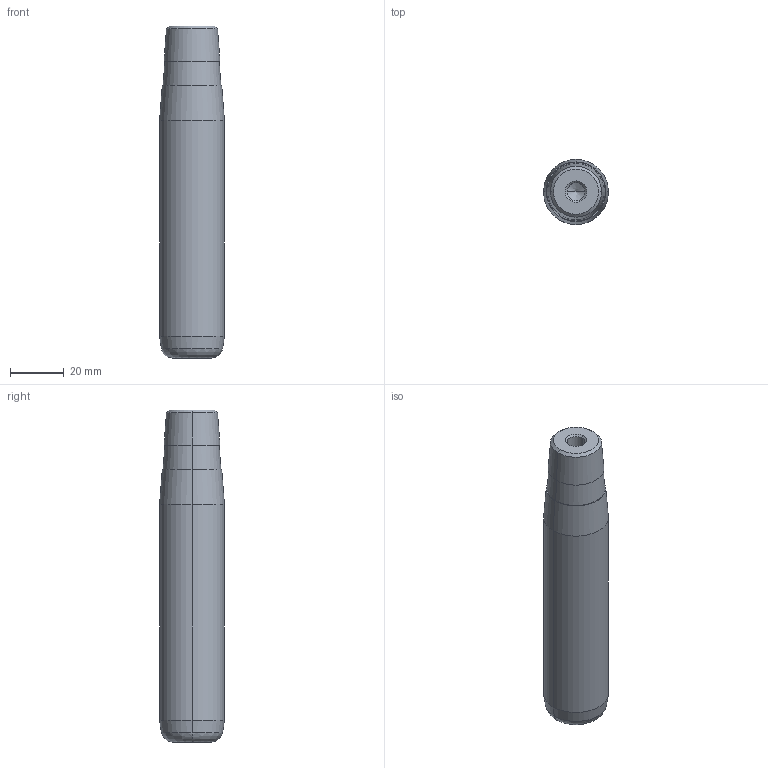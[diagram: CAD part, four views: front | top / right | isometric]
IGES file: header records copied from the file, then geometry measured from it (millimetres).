
Start section: START RECORD GO HERE.
Global section: file name: 722-24x100x123.igs; native system: DASSAULT SYSTEMES CATIA V5 R20 - www.3ds.com; preprocessor: CATIA Version 5 Release 20 ; author: Utente; organization: NB04-ASUS; date: 20210109.093930; units: millimetre
Bounding box: 24 x 24 x 123 mm (x, y, z)
Surface area: 10598.4 mm2 (no closed solid volume)
Topology: 0 solids, 0 shells, 32 faces, 128 edges, 124 vertices
Faces by surface type: revolution 30, plane 2
